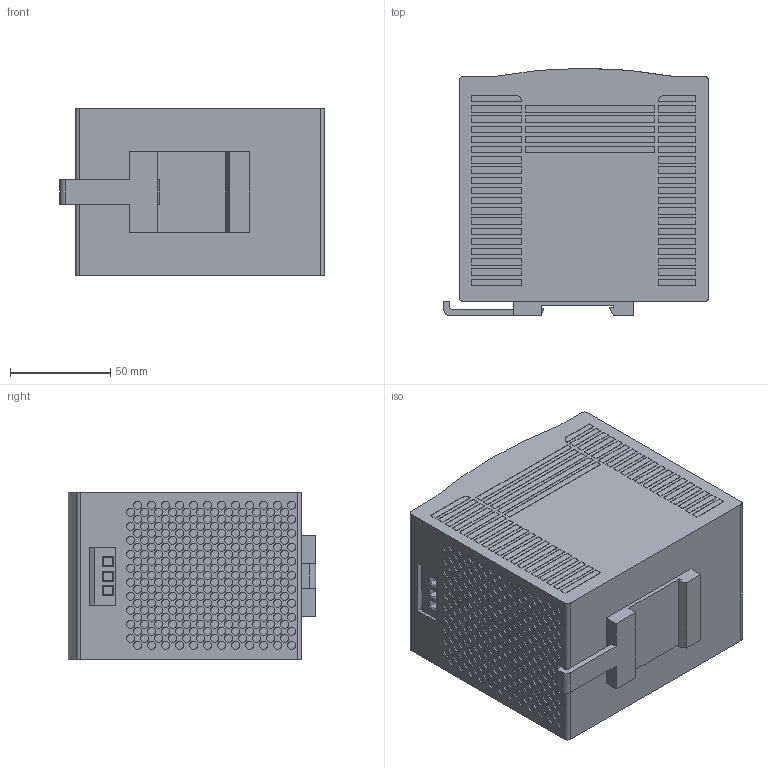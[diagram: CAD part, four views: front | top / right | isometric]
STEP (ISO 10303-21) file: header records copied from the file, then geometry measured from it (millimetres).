
FILE_DESCRIPTION((''),'2;1');
FILE_NAME('D240','2010-05-21T',('rd13'),(''),'PRO/ENGINEER BY PARAMETRIC TECHNOLOGY CORPORATION, 2008230','PRO/ENGINEER BY PARAMETRIC TECHNOLOGY CORPORATION, 2008230','');
FILE_SCHEMA(('AUTOMOTIVE_DESIGN_CC2 { 1 2 10303 214 -1 1 5 2 }'));
Products named in the file (1): D240
Bounding box: 132.25 x 123.6 x 83.5 mm (x, y, z)
Volume: 1187428.5 mm3; surface area: 84261.8 mm2
Topology: 1 solids, 1 shells, 2189 faces, 4686 edges, 3087 vertices
Faces by surface type: plane 1110, cylinder 1055, torus 20, sphere 4
Entity records: 76011 total; most frequent: DIRECTION 11213, CARTESIAN_POINT 10068, ORIENTED_EDGE 9364, PRESENTATION_STYLE_ASSIGNMENT 4848, STYLED_ITEM 4683, CURVE_STYLE 4682, EDGE_CURVE 4682, AXIS2_PLACEMENT_3D 4354
